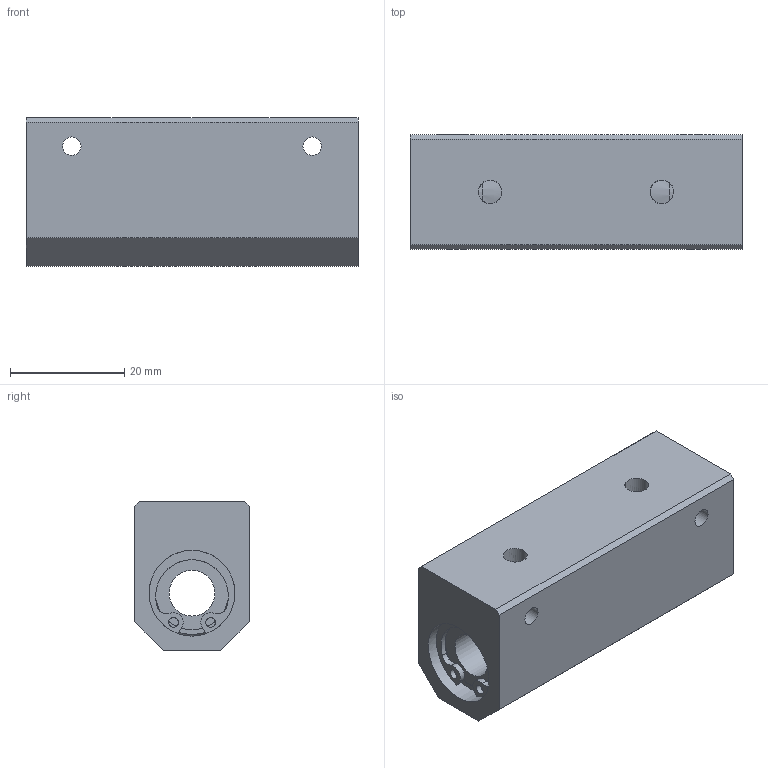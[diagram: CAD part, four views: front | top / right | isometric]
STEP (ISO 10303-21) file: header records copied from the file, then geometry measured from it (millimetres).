
FILE_DESCRIPTION((''),'2;1');
FILE_NAME('D:\製品 (図面)\カタログ用3D\メンテナンスフリー関連\STEP形式\CHW-MF\CHW8MF.stp','2010-06-01T15:31:47',('Tsuchiya'),(''),'Autodesk Inventor 10','Autodesk Inventor 10','');
FILE_SCHEMA(('AUTOMOTIVE_DESIGN { 1 0 10303 214 1 1 1 1 }'));
Length unit declared in the file: millimetre
Products named in the file (1): CHW8MF
Bounding box: 58 x 20 x 26 mm (x, y, z)
Volume: 24295.1 mm3; surface area: 8592.4 mm2
Topology: 1 solids, 1 shells, 75 faces, 199 edges, 124 vertices
Faces by surface type: plane 33, bspline 22, cylinder 18, torus 2
Full cylindrical faces by diameter (mm): 1.7 x2, 8 x1, 12.8 x2, 14.3 x2, 15 x4
Entity records: 2411 total; most frequent: CARTESIAN_POINT 711, DIRECTION 356, ORIENTED_EDGE 316, EDGE_CURVE 158, AXIS2_PLACEMENT_3D 150, EDGE_LOOP 118, VERTEX_POINT 106, CIRCLE 96
